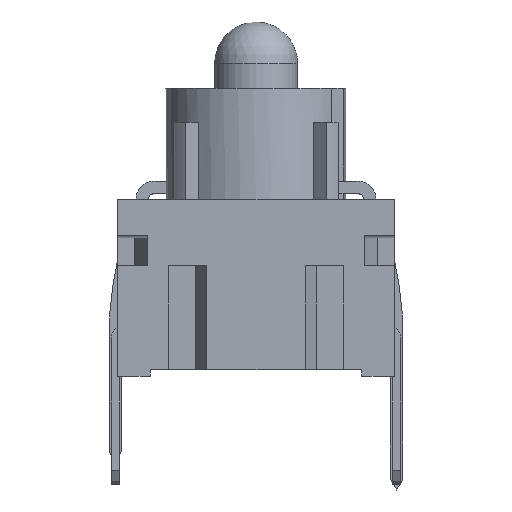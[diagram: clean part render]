
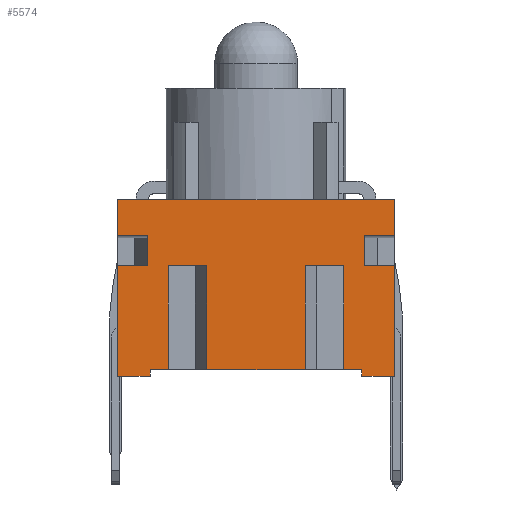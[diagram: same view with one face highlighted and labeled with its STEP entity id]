
A CAD part, front view. The second image highlights one B-rep face of the part: STEP entity #5574.
In plain terms, the highlighted planar face has unit normal (0, -1, 0).
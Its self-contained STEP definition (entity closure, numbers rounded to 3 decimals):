
#1125=CARTESIAN_POINT('',(5.,-5.,4.));
#1126=VERTEX_POINT('',#1125);
#1133=CARTESIAN_POINT('',(5.,-5.,0.0));
#1134=VERTEX_POINT('',#1133);
#1135=CARTESIAN_POINT('',(5.,-5.,0.0));
#1136=DIRECTION('',(0.0,0.0,1.0));
#1137=VECTOR('',#1136,4.);
#1138=LINE('',#1135,#1137);
#1139=EDGE_CURVE('',#1134,#1126,#1138,.T.);
#2296=CARTESIAN_POINT('',(-5.,-5.,0.0));
#2297=VERTEX_POINT('',#2296);
#2304=CARTESIAN_POINT('',(-5.,-5.,4.));
#2305=VERTEX_POINT('',#2304);
#2306=CARTESIAN_POINT('',(-5.,-5.,0.0));
#2307=DIRECTION('',(0.0,0.0,1.0));
#2308=VECTOR('',#2307,4.);
#2309=LINE('',#2306,#2308);
#2310=EDGE_CURVE('',#2297,#2305,#2309,.T.);
#5246=CARTESIAN_POINT('',(-3.166,-5.0,4.0));
#5247=VERTEX_POINT('',#5246);
#5254=CARTESIAN_POINT('',(-3.166,-5.0,0.25));
#5255=VERTEX_POINT('',#5254);
#5256=CARTESIAN_POINT('',(-3.166,-5.,0.25));
#5257=DIRECTION('',(0.0,0.0,1.0));
#5258=VECTOR('',#5257,3.75);
#5259=LINE('',#5256,#5258);
#5260=EDGE_CURVE('',#5255,#5247,#5259,.T.);
#5277=CARTESIAN_POINT('',(-1.786,-5.0,4.0));
#5278=VERTEX_POINT('',#5277);
#5286=CARTESIAN_POINT('',(-1.786,-5.0,0.25));
#5287=VERTEX_POINT('',#5286);
#5294=CARTESIAN_POINT('',(-1.786,-5.,4.0));
#5295=DIRECTION('',(0.0,0.0,-1.0));
#5296=VECTOR('',#5295,3.75);
#5297=LINE('',#5294,#5296);
#5298=EDGE_CURVE('',#5278,#5287,#5297,.T.);
#5310=CARTESIAN_POINT('',(-3.166,-5.,4.0));
#5311=DIRECTION('',(1.0,0.0,0.0));
#5312=VECTOR('',#5311,1.38);
#5313=LINE('',#5310,#5312);
#5314=EDGE_CURVE('',#5247,#5278,#5313,.T.);
#5365=CARTESIAN_POINT('',(1.786,-5.0,4.0));
#5366=VERTEX_POINT('',#5365);
#5373=CARTESIAN_POINT('',(1.786,-5.0,0.25));
#5374=VERTEX_POINT('',#5373);
#5375=CARTESIAN_POINT('',(1.786,-5.,0.25));
#5376=DIRECTION('',(0.0,0.0,1.0));
#5377=VECTOR('',#5376,3.75);
#5378=LINE('',#5375,#5377);
#5379=EDGE_CURVE('',#5374,#5366,#5378,.T.);
#5396=CARTESIAN_POINT('',(3.166,-5.0,4.0));
#5397=VERTEX_POINT('',#5396);
#5405=CARTESIAN_POINT('',(3.166,-5.0,0.25));
#5406=VERTEX_POINT('',#5405);
#5413=CARTESIAN_POINT('',(3.166,-5.,4.0));
#5414=DIRECTION('',(0.0,0.0,-1.0));
#5415=VECTOR('',#5414,3.75);
#5416=LINE('',#5413,#5415);
#5417=EDGE_CURVE('',#5397,#5406,#5416,.T.);
#5429=CARTESIAN_POINT('',(1.786,-5.,4.0));
#5430=DIRECTION('',(1.0,0.0,0.0));
#5431=VECTOR('',#5430,1.38);
#5432=LINE('',#5429,#5431);
#5433=EDGE_CURVE('',#5366,#5397,#5432,.T.);
#5439=CARTESIAN_POINT('',(5.,-5.,0.0));
#5440=DIRECTION('',(0.0,-1.0,0.0));
#5441=DIRECTION('',(0.0,0.0,-1.0));
#5442=AXIS2_PLACEMENT_3D('',#5439,#5440,#5441);
#5443=PLANE('',#5442);
#5444=ORIENTED_EDGE('',*,*,#5260,.T.);
#5445=ORIENTED_EDGE('',*,*,#5314,.T.);
#5446=ORIENTED_EDGE('',*,*,#5298,.T.);
#5447=CARTESIAN_POINT('',(-1.786,-5.,0.25));
#5448=DIRECTION('',(1.0,0.0,0.0));
#5449=VECTOR('',#5448,3.572);
#5450=LINE('',#5447,#5449);
#5451=EDGE_CURVE('',#5287,#5374,#5450,.T.);
#5452=ORIENTED_EDGE('',*,*,#5451,.T.);
#5453=ORIENTED_EDGE('',*,*,#5379,.T.);
#5454=ORIENTED_EDGE('',*,*,#5433,.T.);
#5455=ORIENTED_EDGE('',*,*,#5417,.T.);
#5456=CARTESIAN_POINT('',(3.82,-5.,0.25));
#5457=VERTEX_POINT('',#5456);
#5458=CARTESIAN_POINT('',(3.166,-5.,0.25));
#5459=DIRECTION('',(1.0,0.0,0.0));
#5460=VECTOR('',#5459,0.654);
#5461=LINE('',#5458,#5460);
#5462=EDGE_CURVE('',#5406,#5457,#5461,.T.);
#5463=ORIENTED_EDGE('',*,*,#5462,.T.);
#5464=CARTESIAN_POINT('',(3.82,-5.,0.0));
#5465=VERTEX_POINT('',#5464);
#5466=CARTESIAN_POINT('',(3.82,-5.,0.25));
#5467=DIRECTION('',(0.0,0.0,-1.0));
#5468=VECTOR('',#5467,0.25);
#5469=LINE('',#5466,#5468);
#5470=EDGE_CURVE('',#5457,#5465,#5469,.T.);
#5471=ORIENTED_EDGE('',*,*,#5470,.T.);
#5472=CARTESIAN_POINT('',(5.,-5.,0.0));
#5473=DIRECTION('',(-1.0,0.0,0.0));
#5474=VECTOR('',#5473,1.18);
#5475=LINE('',#5472,#5474);
#5476=EDGE_CURVE('',#1134,#5465,#5475,.T.);
#5477=ORIENTED_EDGE('',*,*,#5476,.F.);
#5478=ORIENTED_EDGE('',*,*,#1139,.T.);
#5479=CARTESIAN_POINT('',(3.9,-5.,4.));
#5480=VERTEX_POINT('',#5479);
#5481=CARTESIAN_POINT('',(5.,-5.,4.));
#5482=DIRECTION('',(-1.0,0.0,0.0));
#5483=VECTOR('',#5482,1.1);
#5484=LINE('',#5481,#5483);
#5485=EDGE_CURVE('',#1126,#5480,#5484,.T.);
#5486=ORIENTED_EDGE('',*,*,#5485,.T.);
#5487=CARTESIAN_POINT('',(3.9,-5.,5.086));
#5488=VERTEX_POINT('',#5487);
#5489=CARTESIAN_POINT('',(3.9,-5.,4.));
#5490=DIRECTION('',(0.0,0.0,1.0));
#5491=VECTOR('',#5490,1.086);
#5492=LINE('',#5489,#5491);
#5493=EDGE_CURVE('',#5480,#5488,#5492,.T.);
#5494=ORIENTED_EDGE('',*,*,#5493,.T.);
#5495=CARTESIAN_POINT('',(5.,-5.,5.086));
#5496=VERTEX_POINT('',#5495);
#5497=CARTESIAN_POINT('',(3.9,-5.,5.086));
#5498=DIRECTION('',(1.0,0.0,0.0));
#5499=VECTOR('',#5498,1.1);
#5500=LINE('',#5497,#5499);
#5501=EDGE_CURVE('',#5488,#5496,#5500,.T.);
#5502=ORIENTED_EDGE('',*,*,#5501,.T.);
#5503=CARTESIAN_POINT('',(5.,-5.,6.38));
#5504=VERTEX_POINT('',#5503);
#5505=CARTESIAN_POINT('',(5.,-5.,5.086));
#5506=DIRECTION('',(0.0,0.0,1.0));
#5507=VECTOR('',#5506,1.294);
#5508=LINE('',#5505,#5507);
#5509=EDGE_CURVE('',#5496,#5504,#5508,.T.);
#5510=ORIENTED_EDGE('',*,*,#5509,.T.);
#5511=CARTESIAN_POINT('',(-5.,-5.,6.38));
#5512=VERTEX_POINT('',#5511);
#5513=CARTESIAN_POINT('',(5.,-5.,6.38));
#5514=DIRECTION('',(-1.0,0.0,0.0));
#5515=VECTOR('',#5514,10.0);
#5516=LINE('',#5513,#5515);
#5517=EDGE_CURVE('',#5504,#5512,#5516,.T.);
#5518=ORIENTED_EDGE('',*,*,#5517,.T.);
#5519=CARTESIAN_POINT('',(-5.,-5.,5.086));
#5520=VERTEX_POINT('',#5519);
#5521=CARTESIAN_POINT('',(-5.,-5.,5.086));
#5522=DIRECTION('',(0.0,0.0,1.0));
#5523=VECTOR('',#5522,1.294);
#5524=LINE('',#5521,#5523);
#5525=EDGE_CURVE('',#5520,#5512,#5524,.T.);
#5526=ORIENTED_EDGE('',*,*,#5525,.F.);
#5527=CARTESIAN_POINT('',(-3.9,-5.,5.086));
#5528=VERTEX_POINT('',#5527);
#5529=CARTESIAN_POINT('',(-5.,-5.,5.086));
#5530=DIRECTION('',(1.0,0.0,0.0));
#5531=VECTOR('',#5530,1.1);
#5532=LINE('',#5529,#5531);
#5533=EDGE_CURVE('',#5520,#5528,#5532,.T.);
#5534=ORIENTED_EDGE('',*,*,#5533,.T.);
#5535=CARTESIAN_POINT('',(-3.9,-5.,4.));
#5536=VERTEX_POINT('',#5535);
#5537=CARTESIAN_POINT('',(-3.9,-5.,5.086));
#5538=DIRECTION('',(0.0,0.0,-1.0));
#5539=VECTOR('',#5538,1.086);
#5540=LINE('',#5537,#5539);
#5541=EDGE_CURVE('',#5528,#5536,#5540,.T.);
#5542=ORIENTED_EDGE('',*,*,#5541,.T.);
#5543=CARTESIAN_POINT('',(-3.9,-5.,4.));
#5544=DIRECTION('',(-1.0,0.0,0.0));
#5545=VECTOR('',#5544,1.1);
#5546=LINE('',#5543,#5545);
#5547=EDGE_CURVE('',#5536,#2305,#5546,.T.);
#5548=ORIENTED_EDGE('',*,*,#5547,.T.);
#5549=ORIENTED_EDGE('',*,*,#2310,.F.);
#5550=CARTESIAN_POINT('',(-3.82,-5.,0.0));
#5551=VERTEX_POINT('',#5550);
#5552=CARTESIAN_POINT('',(-3.82,-5.,0.0));
#5553=DIRECTION('',(-1.0,0.0,0.0));
#5554=VECTOR('',#5553,1.18);
#5555=LINE('',#5552,#5554);
#5556=EDGE_CURVE('',#5551,#2297,#5555,.T.);
#5557=ORIENTED_EDGE('',*,*,#5556,.F.);
#5558=CARTESIAN_POINT('',(-3.82,-5.,0.25));
#5559=VERTEX_POINT('',#5558);
#5560=CARTESIAN_POINT('',(-3.82,-5.,0.0));
#5561=DIRECTION('',(0.0,0.0,1.0));
#5562=VECTOR('',#5561,0.25);
#5563=LINE('',#5560,#5562);
#5564=EDGE_CURVE('',#5551,#5559,#5563,.T.);
#5565=ORIENTED_EDGE('',*,*,#5564,.T.);
#5566=CARTESIAN_POINT('',(-3.82,-5.,0.25));
#5567=DIRECTION('',(1.0,0.0,0.0));
#5568=VECTOR('',#5567,0.654);
#5569=LINE('',#5566,#5568);
#5570=EDGE_CURVE('',#5559,#5255,#5569,.T.);
#5571=ORIENTED_EDGE('',*,*,#5570,.T.);
#5572=EDGE_LOOP('',(#5444,#5445,#5446,#5452,#5453,#5454,#5455,#5463,#5471,#5477,#5478,#5486,#5494,#5502,#5510,#5518,#5526,#5534,#5542,#5548,#5549,#5557,#5565,#5571));
#5573=FACE_OUTER_BOUND('',#5572,.T.);
#5574=ADVANCED_FACE('',(#5573),#5443,.T.);
